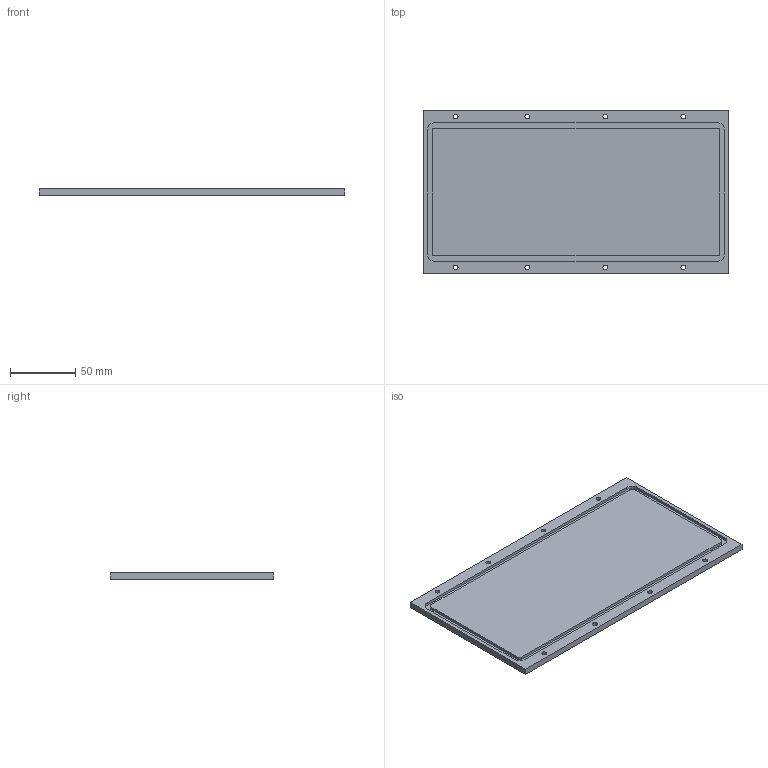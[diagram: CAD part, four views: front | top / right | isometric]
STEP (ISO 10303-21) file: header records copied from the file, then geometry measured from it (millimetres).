
FILE_DESCRIPTION(('FreeCAD Model'),'2;1');
FILE_NAME('Open CASCADE Shape Model','2026-09-11T13:41:38',( '' ),( '' ),'Open CASCADE STEP processor 7.8','FreeCAD','Unknown');
FILE_SCHEMA(('AUTOMOTIVE_DESIGN { 1 0 10303 214 1 1 1 1 }'));
Length unit declared in the file: millimetre
Products named in the file (1): Open CASCADE STEP translator 7.8 21
Bounding box: 235 x 126 x 5 mm (x, y, z)
Volume: 141681.9 mm3; surface area: 66100 mm2
Topology: 1 solids, 1 shells, 32 faces, 84 edges, 56 vertices
Faces by surface type: plane 16, cylinder 16
Full cylindrical faces by diameter (mm): 3.6 x8
Entity records: 1042 total; most frequent: DIRECTION 182, CARTESIAN_POINT 173, ORIENTED_EDGE 168, EDGE_CURVE 84, AXIS2_PLACEMENT_3D 65, VERTEX_POINT 56, LINE 52, VECTOR 52
